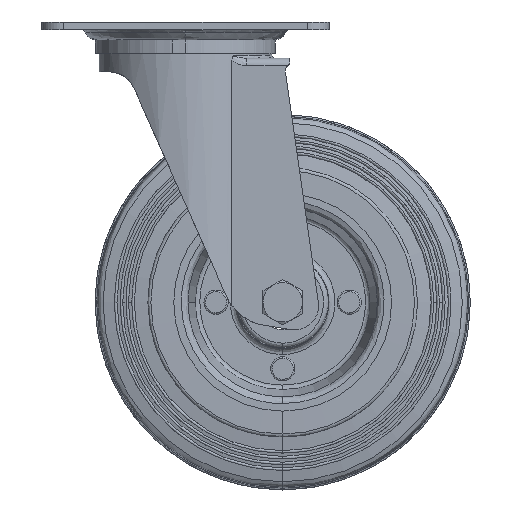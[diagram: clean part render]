
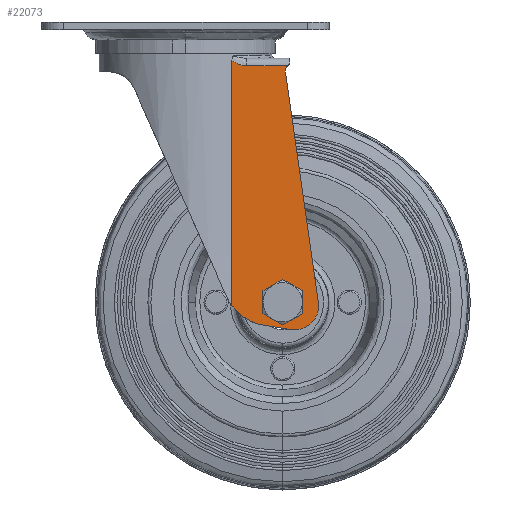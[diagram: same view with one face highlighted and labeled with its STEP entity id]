
A CAD part, front view. The second image highlights one B-rep face of the part: STEP entity #22073.
In plain terms, the highlighted planar face has unit normal (0, -1, 0).
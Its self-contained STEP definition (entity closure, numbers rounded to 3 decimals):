
#62 = EDGE_CURVE ( 'NONE', #28862, #19856, #17159, .T. ) ;
#418 = VERTEX_POINT ( 'NONE', #17894 ) ;
#502 = AXIS2_PLACEMENT_3D ( 'NONE', #28708, #24710, #11918 ) ;
#809 = ORIENTED_EDGE ( 'NONE', *, *, #12356, .F. ) ;
#976 = CARTESIAN_POINT ( 'NONE',  ( 16.27, -26.415, 116.994 ) ) ;
#1199 = ORIENTED_EDGE ( 'NONE', *, *, #4303, .F. ) ;
#1270 = DIRECTION ( 'NONE',  ( 1., 0., 0. ) ) ;
#1423 = PLANE ( 'NONE',  #19974 ) ;
#2353 = CARTESIAN_POINT ( 'NONE',  ( 32.342, -26.415, 37.719 ) ) ;
#2987 = DIRECTION ( 'NONE',  ( 0., 0., 1. ) ) ;
#3383 = EDGE_CURVE ( 'NONE', #10078, #9254, #26159, .T. ) ;
#3426 = CARTESIAN_POINT ( 'NONE',  ( 26.25, -26.415, 30.086 ) ) ;
#4303 = EDGE_CURVE ( 'NONE', #418, #10078, #26057, .T. ) ;
#4747 = ORIENTED_EDGE ( 'NONE', *, *, #11263, .F. ) ;
#4820 = DIRECTION ( 'NONE',  ( 0., 0., 1. ) ) ;
#5303 = CARTESIAN_POINT ( 'NONE',  ( 15.607, -26.415, 36.548 ) ) ;
#5477 = LINE ( 'NONE', #15000, #30142 ) ;
#5750 = EDGE_CURVE ( 'NONE', #25994, #418, #18077, .T. ) ;
#5779 = VECTOR ( 'NONE', #6018, 1000. ) ;
#6018 = DIRECTION ( 'NONE',  ( -0.987, 0., 0.158 ) ) ;
#6249 = CARTESIAN_POINT ( 'NONE',  ( 20.436, -26.415, 115.766 ) ) ;
#6576 = DIRECTION ( 'NONE',  ( 0., 0., 1. ) ) ;
#7163 = CARTESIAN_POINT ( 'NONE',  ( 32.342, -26.415, 37.719 ) ) ;
#7312 = CARTESIAN_POINT ( 'NONE',  ( 19.554, -26.415, 115.804 ) ) ;
#7657 = ORIENTED_EDGE ( 'NONE', *, *, #32896, .F. ) ;
#8484 = CARTESIAN_POINT ( 'NONE',  ( 34.947, -26.415, 28.693 ) ) ;
#8834 = DIRECTION ( 'NONE',  ( 0., 1., 0. ) ) ;
#9254 = VERTEX_POINT ( 'NONE', #3426 ) ;
#10078 = VERTEX_POINT ( 'NONE', #8484 ) ;
#11228 = VECTOR ( 'NONE', #30082, 1000. ) ;
#11263 = EDGE_CURVE ( 'NONE', #12366, #19144, #24390, .T. ) ;
#11632 = FACE_BOUND ( 'NONE', #17149, .T. ) ;
#11709 = CIRCLE ( 'NONE', #22329, 2.5 ) ;
#11918 = DIRECTION ( 'NONE',  ( 0., 0., 1. ) ) ;
#12129 = AXIS2_PLACEMENT_3D ( 'NONE', #2353, #17991, #2987 ) ;
#12356 = EDGE_CURVE ( 'NONE', #25877, #20224, #5477, .T. ) ;
#12366 = VERTEX_POINT ( 'NONE', #5303 ) ;
#12923 = AXIS2_PLACEMENT_3D ( 'NONE', #13229, #18726, #15580 ) ;
#13229 = CARTESIAN_POINT ( 'NONE',  ( 28.859, -26.415, 46.378 ) ) ;
#15000 = CARTESIAN_POINT ( 'NONE',  ( 99.979, -26.415, 115.766 ) ) ;
#15288 = CARTESIAN_POINT ( 'NONE',  ( 32.342, -26.415, 41.969 ) ) ;
#15580 = DIRECTION ( 'NONE',  ( 0., 0., 1. ) ) ;
#15841 = CARTESIAN_POINT ( 'NONE',  ( 34.947, -26.415, 28.693 ) ) ;
#15966 = CARTESIAN_POINT ( 'NONE',  ( 99.979, -26.415, 18.266 ) ) ;
#16510 = VECTOR ( 'NONE', #6576, 1000. ) ;
#16747 = EDGE_CURVE ( 'NONE', #25994, #20224, #11709, .T. ) ;
#17149 = EDGE_LOOP ( 'NONE', ( #27859, #29729 ) ) ;
#17159 = CIRCLE ( 'NONE', #29392, 4.25 ) ;
#17238 = ORIENTED_EDGE ( 'NONE', *, *, #3383, .F. ) ;
#17352 = ORIENTED_EDGE ( 'NONE', *, *, #5750, .F. ) ;
#17894 = CARTESIAN_POINT ( 'NONE',  ( 44.129, -26.415, 37.746 ) ) ;
#17991 = DIRECTION ( 'NONE',  ( 0., -1., 0. ) ) ;
#18077 = LINE ( 'NONE', #28262, #11228 ) ;
#18298 = DIRECTION ( 'NONE',  ( 0., 0., -1. ) ) ;
#18726 = DIRECTION ( 'NONE',  ( 0., 1., 0. ) ) ;
#19098 = FACE_OUTER_BOUND ( 'NONE', #20362, .T. ) ;
#19144 = VERTEX_POINT ( 'NONE', #28700 ) ;
#19314 = CIRCLE ( 'NONE', #12923, 16.5 ) ;
#19622 = CARTESIAN_POINT ( 'NONE',  ( 19.992, -26.415, 115.766 ) ) ;
#19856 = VERTEX_POINT ( 'NONE', #15288 ) ;
#19974 = AXIS2_PLACEMENT_3D ( 'NONE', #15966, #8834, #1270 ) ;
#20224 = VERTEX_POINT ( 'NONE', #30613 ) ;
#20296 = CARTESIAN_POINT ( 'NONE',  ( 20.436, -26.415, 115.766 ) ) ;
#20362 = EDGE_LOOP ( 'NONE', ( #7657, #4747, #27125, #17238, #1199, #17352, #21095, #809 ) ) ;
#21095 = ORIENTED_EDGE ( 'NONE', *, *, #16747, .T. ) ;
#22073 = ADVANCED_FACE ( 'NONE', ( #11632, #19098 ), #1423, .F. ) ;
#22215 = CARTESIAN_POINT ( 'NONE',  ( 15.607, -26.415, 113.766 ) ) ;
#22329 = AXIS2_PLACEMENT_3D ( 'NONE', #25809, #28803, #18298 ) ;
#23199 = CARTESIAN_POINT ( 'NONE',  ( 33.259, -26.415, 113.682 ) ) ;
#23311 = EDGE_CURVE ( 'NONE', #19856, #28862, #26487, .T. ) ;
#24390 = LINE ( 'NONE', #22215, #16510 ) ;
#24467 = CARTESIAN_POINT ( 'NONE',  ( 15.91, -26.415, 117.264 ) ) ;
#24710 = DIRECTION ( 'NONE',  ( 0., 1., 0. ) ) ;
#24954 = CARTESIAN_POINT ( 'NONE',  ( 18.263, -26.415, 116.064 ) ) ;
#25469 = B_SPLINE_CURVE_WITH_KNOTS ( 'NONE', 3,
 ( #26970, #24467, #976, #29950, #27792, #24954, #29788, #7312, #19622, #20296 ),
 .UNSPECIFIED., .F., .F.,
 ( 4, 2, 2, 2, 4 ),
 ( 0., 0.25, 0.5, 0.75, 1. ),
 .UNSPECIFIED. ) ;
#25809 = CARTESIAN_POINT ( 'NONE',  ( 35.733, -26.415, 114.036 ) ) ;
#25877 = VERTEX_POINT ( 'NONE', #6249 ) ;
#25994 = VERTEX_POINT ( 'NONE', #23199 ) ;
#26057 = CIRCLE ( 'NONE', #502, 8. ) ;
#26159 = LINE ( 'NONE', #15841, #5779 ) ;
#26487 = CIRCLE ( 'NONE', #12129, 4.25 ) ;
#26554 = EDGE_CURVE ( 'NONE', #9254, #12366, #19314, .T. ) ;
#26970 = CARTESIAN_POINT ( 'NONE',  ( 15.607, -26.415, 117.587 ) ) ;
#27125 = ORIENTED_EDGE ( 'NONE', *, *, #26554, .F. ) ;
#27792 = CARTESIAN_POINT ( 'NONE',  ( 17.43, -26.415, 116.359 ) ) ;
#27859 = ORIENTED_EDGE ( 'NONE', *, *, #23311, .F. ) ;
#28262 = CARTESIAN_POINT ( 'NONE',  ( 33.259, -26.415, 113.682 ) ) ;
#28700 = CARTESIAN_POINT ( 'NONE',  ( 15.607, -26.415, 117.587 ) ) ;
#28708 = CARTESIAN_POINT ( 'NONE',  ( 36.212, -26.415, 36.592 ) ) ;
#28803 = DIRECTION ( 'NONE',  ( 0., 1., 0. ) ) ;
#28862 = VERTEX_POINT ( 'NONE', #30173 ) ;
#29392 = AXIS2_PLACEMENT_3D ( 'NONE', #7163, #29955, #4820 ) ;
#29729 = ORIENTED_EDGE ( 'NONE', *, *, #62, .F. ) ;
#29788 = CARTESIAN_POINT ( 'NONE',  ( 18.691, -26.415, 115.954 ) ) ;
#29950 = CARTESIAN_POINT ( 'NONE',  ( 17.027, -26.415, 116.543 ) ) ;
#29955 = DIRECTION ( 'NONE',  ( 0., -1., 0. ) ) ;
#30082 = DIRECTION ( 'NONE',  ( 0.142, 0., -0.99 ) ) ;
#30117 = DIRECTION ( 'NONE',  ( 1., 0., 0. ) ) ;
#30142 = VECTOR ( 'NONE', #30117, 1000. ) ;
#30173 = CARTESIAN_POINT ( 'NONE',  ( 32.342, -26.415, 33.469 ) ) ;
#30613 = CARTESIAN_POINT ( 'NONE',  ( 33.928, -26.415, 115.766 ) ) ;
#32896 = EDGE_CURVE ( 'NONE', #19144, #25877, #25469, .T. ) ;
